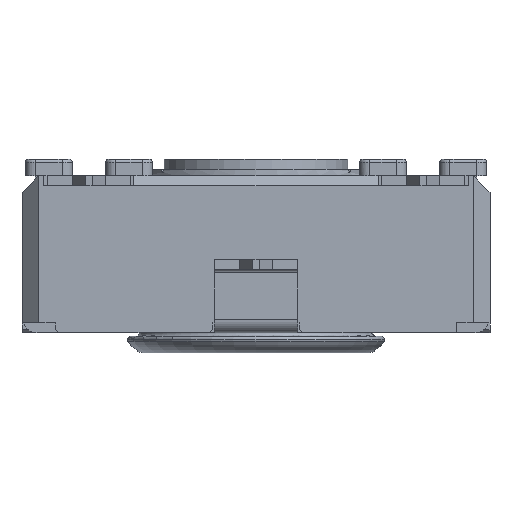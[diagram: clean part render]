
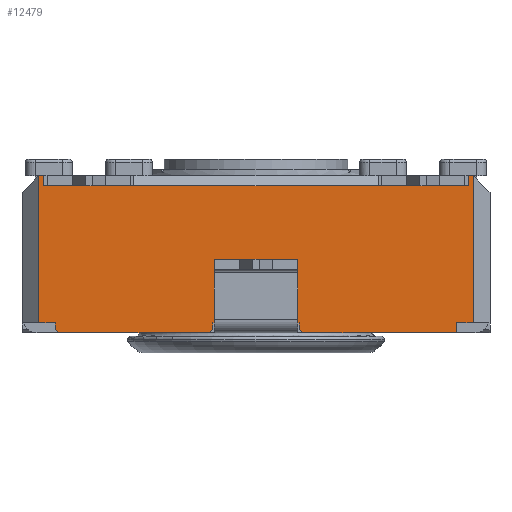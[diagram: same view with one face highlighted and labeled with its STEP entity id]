
A CAD part, front view. The second image highlights one B-rep face of the part: STEP entity #12479.
In plain terms, the highlighted planar face has unit normal (0, -1, 0).
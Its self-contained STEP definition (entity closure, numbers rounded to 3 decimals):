
#192=PLANE('',#13188);
#691=FACE_OUTER_BOUND('',#1356,.T.);
#1356=EDGE_LOOP('',(#8649,#8650,#8651,#8652,#8653,#8654,#8655,#8656,#8657,
#8658,#8659,#8660,#8661,#8662,#8663,#8664,#8665,#8666,#8667,#8668,#8669,
#8670,#8671,#8672,#8673,#8674,#8675));
#2031=LINE('',#17739,#3508);
#2044=LINE('',#17773,#3521);
#2049=LINE('',#17783,#3526);
#2127=LINE('',#17944,#3604);
#2152=LINE('',#17995,#3629);
#2178=LINE('',#18059,#3655);
#2179=LINE('',#18061,#3656);
#2180=LINE('',#18063,#3657);
#2181=LINE('',#18064,#3658);
#2182=LINE('',#18066,#3659);
#2183=LINE('',#18068,#3660);
#2184=LINE('',#18070,#3661);
#2185=LINE('',#18072,#3662);
#2186=LINE('',#18073,#3663);
#2187=LINE('',#18075,#3664);
#2188=LINE('',#18077,#3665);
#2189=LINE('',#18079,#3666);
#2190=LINE('',#18081,#3667);
#2191=LINE('',#18083,#3668);
#2192=LINE('',#18085,#3669);
#2193=LINE('',#18087,#3670);
#2194=LINE('',#18089,#3671);
#2195=LINE('',#18091,#3672);
#2196=LINE('',#18092,#3673);
#2197=LINE('',#18094,#3674);
#2198=LINE('',#18096,#3675);
#2199=LINE('',#18097,#3676);
#3508=VECTOR('',#14228,10.);
#3521=VECTOR('',#14267,10.);
#3526=VECTOR('',#14272,10.);
#3604=VECTOR('',#14376,10.);
#3629=VECTOR('',#14417,10.);
#3655=VECTOR('',#14465,10.);
#3656=VECTOR('',#14466,10.);
#3657=VECTOR('',#14467,10.);
#3658=VECTOR('',#14468,10.);
#3659=VECTOR('',#14469,10.);
#3660=VECTOR('',#14470,10.);
#3661=VECTOR('',#14471,10.);
#3662=VECTOR('',#14472,10.);
#3663=VECTOR('',#14473,10.);
#3664=VECTOR('',#14474,10.);
#3665=VECTOR('',#14475,10.);
#3666=VECTOR('',#14476,10.);
#3667=VECTOR('',#14477,10.);
#3668=VECTOR('',#14478,10.);
#3669=VECTOR('',#14479,10.);
#3670=VECTOR('',#14480,10.);
#3671=VECTOR('',#14481,10.);
#3672=VECTOR('',#14482,10.);
#3673=VECTOR('',#14483,10.);
#3674=VECTOR('',#14484,10.);
#3675=VECTOR('',#14485,10.);
#3676=VECTOR('',#14486,10.);
#5291=VERTEX_POINT('',#17717);
#5299=VERTEX_POINT('',#17738);
#5307=VERTEX_POINT('',#17772);
#5311=VERTEX_POINT('',#17780);
#5312=VERTEX_POINT('',#17782);
#5381=VERTEX_POINT('',#17941);
#5382=VERTEX_POINT('',#17943);
#5399=VERTEX_POINT('',#17992);
#5400=VERTEX_POINT('',#17994);
#5427=VERTEX_POINT('',#18058);
#5428=VERTEX_POINT('',#18060);
#5429=VERTEX_POINT('',#18062);
#5430=VERTEX_POINT('',#18065);
#5431=VERTEX_POINT('',#18067);
#5432=VERTEX_POINT('',#18069);
#5433=VERTEX_POINT('',#18071);
#5434=VERTEX_POINT('',#18074);
#5435=VERTEX_POINT('',#18076);
#5436=VERTEX_POINT('',#18078);
#5437=VERTEX_POINT('',#18080);
#5438=VERTEX_POINT('',#18082);
#5439=VERTEX_POINT('',#18084);
#5440=VERTEX_POINT('',#18086);
#5441=VERTEX_POINT('',#18088);
#5442=VERTEX_POINT('',#18090);
#5443=VERTEX_POINT('',#18093);
#5444=VERTEX_POINT('',#18095);
#6520=EDGE_CURVE('',#5291,#5299,#2031,.T.);
#6537=EDGE_CURVE('',#5307,#5291,#2044,.T.);
#6542=EDGE_CURVE('',#5312,#5311,#2049,.T.);
#6622=EDGE_CURVE('',#5382,#5381,#2127,.T.);
#6647=EDGE_CURVE('',#5400,#5399,#2152,.T.);
#6679=EDGE_CURVE('',#5381,#5427,#2178,.T.);
#6680=EDGE_CURVE('',#5427,#5428,#2179,.T.);
#6681=EDGE_CURVE('',#5428,#5429,#2180,.T.);
#6682=EDGE_CURVE('',#5312,#5429,#2181,.T.);
#6683=EDGE_CURVE('',#5311,#5430,#2182,.T.);
#6684=EDGE_CURVE('',#5431,#5430,#2183,.T.);
#6685=EDGE_CURVE('',#5431,#5432,#2184,.T.);
#6686=EDGE_CURVE('',#5433,#5432,#2185,.T.);
#6687=EDGE_CURVE('',#5307,#5433,#2186,.T.);
#6688=EDGE_CURVE('',#5299,#5434,#2187,.T.);
#6689=EDGE_CURVE('',#5434,#5435,#2188,.T.);
#6690=EDGE_CURVE('',#5436,#5435,#2189,.T.);
#6691=EDGE_CURVE('',#5436,#5437,#2190,.T.);
#6692=EDGE_CURVE('',#5437,#5438,#2191,.T.);
#6693=EDGE_CURVE('',#5438,#5439,#2192,.T.);
#6694=EDGE_CURVE('',#5440,#5439,#2193,.T.);
#6695=EDGE_CURVE('',#5440,#5441,#2194,.T.);
#6696=EDGE_CURVE('',#5441,#5442,#2195,.T.);
#6697=EDGE_CURVE('',#5442,#5400,#2196,.T.);
#6698=EDGE_CURVE('',#5399,#5443,#2197,.T.);
#6699=EDGE_CURVE('',#5444,#5443,#2198,.T.);
#6700=EDGE_CURVE('',#5444,#5382,#2199,.T.);
#8649=ORIENTED_EDGE('',*,*,#6622,.T.);
#8650=ORIENTED_EDGE('',*,*,#6679,.T.);
#8651=ORIENTED_EDGE('',*,*,#6680,.T.);
#8652=ORIENTED_EDGE('',*,*,#6681,.T.);
#8653=ORIENTED_EDGE('',*,*,#6682,.F.);
#8654=ORIENTED_EDGE('',*,*,#6542,.T.);
#8655=ORIENTED_EDGE('',*,*,#6683,.T.);
#8656=ORIENTED_EDGE('',*,*,#6684,.F.);
#8657=ORIENTED_EDGE('',*,*,#6685,.T.);
#8658=ORIENTED_EDGE('',*,*,#6686,.F.);
#8659=ORIENTED_EDGE('',*,*,#6687,.F.);
#8660=ORIENTED_EDGE('',*,*,#6537,.T.);
#8661=ORIENTED_EDGE('',*,*,#6520,.T.);
#8662=ORIENTED_EDGE('',*,*,#6688,.T.);
#8663=ORIENTED_EDGE('',*,*,#6689,.T.);
#8664=ORIENTED_EDGE('',*,*,#6690,.F.);
#8665=ORIENTED_EDGE('',*,*,#6691,.T.);
#8666=ORIENTED_EDGE('',*,*,#6692,.T.);
#8667=ORIENTED_EDGE('',*,*,#6693,.T.);
#8668=ORIENTED_EDGE('',*,*,#6694,.F.);
#8669=ORIENTED_EDGE('',*,*,#6695,.T.);
#8670=ORIENTED_EDGE('',*,*,#6696,.T.);
#8671=ORIENTED_EDGE('',*,*,#6697,.T.);
#8672=ORIENTED_EDGE('',*,*,#6647,.T.);
#8673=ORIENTED_EDGE('',*,*,#6698,.T.);
#8674=ORIENTED_EDGE('',*,*,#6699,.F.);
#8675=ORIENTED_EDGE('',*,*,#6700,.T.);
#12479=ADVANCED_FACE('',(#691),#192,.T.);
#13188=AXIS2_PLACEMENT_3D('',#18057,#14463,#14464);
#14228=DIRECTION('',(1.,0.,0.));
#14267=DIRECTION('',(1.,0.,0.));
#14272=DIRECTION('',(1.,0.,0.));
#14376=DIRECTION('',(-1.,0.,0.));
#14417=DIRECTION('',(-1.,0.,0.));
#14463=DIRECTION('center_axis',(0.,-1.,0.));
#14464=DIRECTION('ref_axis',(0.,0.,-1.));
#14465=DIRECTION('',(-1.,0.,0.));
#14466=DIRECTION('',(0.,0.,1.));
#14467=DIRECTION('',(-1.,0.,0.));
#14468=DIRECTION('',(0.,0.,1.));
#14469=DIRECTION('',(0.,0.,-1.));
#14470=DIRECTION('',(-0.707,0.,0.707));
#14471=DIRECTION('',(1.,0.,0.));
#14472=DIRECTION('',(-0.707,0.,-0.707));
#14473=DIRECTION('',(0.,0.,-1.));
#14474=DIRECTION('',(1.,0.,0.));
#14475=DIRECTION('',(0.,0.,-1.));
#14476=DIRECTION('',(-0.707,0.,0.707));
#14477=DIRECTION('',(1.,0.,0.));
#14478=DIRECTION('',(0.,0.,1.));
#14479=DIRECTION('',(1.,0.,0.));
#14480=DIRECTION('',(0.,0.,-1.));
#14481=DIRECTION('',(-1.,0.,0.));
#14482=DIRECTION('',(0.,0.,-1.));
#14483=DIRECTION('',(-1.,0.,0.));
#14484=DIRECTION('',(-1.,0.,0.));
#14485=DIRECTION('',(1.,0.,0.));
#14486=DIRECTION('',(-1.,0.,0.));
#17717=CARTESIAN_POINT('',(-8.717,-9.898,0.));
#17738=CARTESIAN_POINT('',(-6.217,-9.898,0.));
#17739=CARTESIAN_POINT('',(-14.467,-9.898,0.));
#17772=CARTESIAN_POINT('',(-8.767,-9.898,0.));
#17773=CARTESIAN_POINT('',(-14.467,-9.898,0.));
#17780=CARTESIAN_POINT('',(-13.467,-9.898,0.));
#17782=CARTESIAN_POINT('',(-13.967,-9.898,0.));
#17783=CARTESIAN_POINT('',(-7.245,-9.898,0.));
#17941=CARTESIAN_POINT('',(-13.717,-9.898,4.1));
#17943=CARTESIAN_POINT('',(-11.217,-9.898,4.1));
#17944=CARTESIAN_POINT('',(-6.467,-9.898,4.1));
#17992=CARTESIAN_POINT('',(-3.717,-9.898,4.1));
#17994=CARTESIAN_POINT('',(-1.217,-9.898,4.1));
#17995=CARTESIAN_POINT('',(-1.467,-9.898,4.1));
#18057=CARTESIAN_POINT('Origin',(-0.467,-9.898,0.));
#18058=CARTESIAN_POINT('',(-13.817,-9.898,4.1));
#18059=CARTESIAN_POINT('',(-3.944,-9.898,4.1));
#18060=CARTESIAN_POINT('',(-13.817,-9.898,4.4));
#18061=CARTESIAN_POINT('',(-13.817,-9.898,2.2));
#18062=CARTESIAN_POINT('',(-13.967,-9.898,4.4));
#18063=CARTESIAN_POINT('',(-14.467,-9.898,4.4));
#18064=CARTESIAN_POINT('',(-13.967,-9.898,0.));
#18065=CARTESIAN_POINT('',(-13.467,-9.898,-0.2));
#18066=CARTESIAN_POINT('',(-13.467,-9.898,-0.15));
#18067=CARTESIAN_POINT('',(-13.367,-9.898,-0.3));
#18068=CARTESIAN_POINT('',(-10.242,-9.898,-3.425));
#18069=CARTESIAN_POINT('',(-8.867,-9.898,-0.3));
#18070=CARTESIAN_POINT('',(-0.467,-9.898,-0.3));
#18071=CARTESIAN_POINT('',(-8.767,-9.898,-0.2));
#18072=CARTESIAN_POINT('',(-6.667,-9.898,1.9));
#18073=CARTESIAN_POINT('',(-8.767,-9.898,0.));
#18074=CARTESIAN_POINT('',(-6.167,-9.898,0.));
#18075=CARTESIAN_POINT('',(-14.467,-9.898,0.));
#18076=CARTESIAN_POINT('',(-6.167,-9.898,-0.2));
#18077=CARTESIAN_POINT('',(-6.167,-9.898,0.));
#18078=CARTESIAN_POINT('',(-6.067,-9.898,-0.3));
#18079=CARTESIAN_POINT('',(-4.767,-9.898,-1.6));
#18080=CARTESIAN_POINT('',(-1.467,-9.898,-0.3));
#18081=CARTESIAN_POINT('',(-0.467,-9.898,-0.3));
#18082=CARTESIAN_POINT('',(-1.467,-9.898,0.));
#18083=CARTESIAN_POINT('',(-1.467,-9.898,-0.15));
#18084=CARTESIAN_POINT('',(-0.967,-9.898,0.));
#18085=CARTESIAN_POINT('',(-0.646,-9.898,0.));
#18086=CARTESIAN_POINT('',(-0.967,-9.898,4.4));
#18087=CARTESIAN_POINT('',(-0.967,-9.898,0.));
#18088=CARTESIAN_POINT('',(-1.117,-9.898,4.4));
#18089=CARTESIAN_POINT('',(-14.467,-9.898,4.4));
#18090=CARTESIAN_POINT('',(-1.117,-9.898,4.1));
#18091=CARTESIAN_POINT('',(-1.117,-9.898,2.2));
#18092=CARTESIAN_POINT('',(-1.862,-9.898,4.1));
#18093=CARTESIAN_POINT('',(-3.817,-9.898,4.1));
#18094=CARTESIAN_POINT('',(-1.862,-9.898,4.1));
#18095=CARTESIAN_POINT('',(-11.117,-9.898,4.1));
#18096=CARTESIAN_POINT('',(-3.967,-9.898,4.1));
#18097=CARTESIAN_POINT('',(-3.944,-9.898,4.1));
